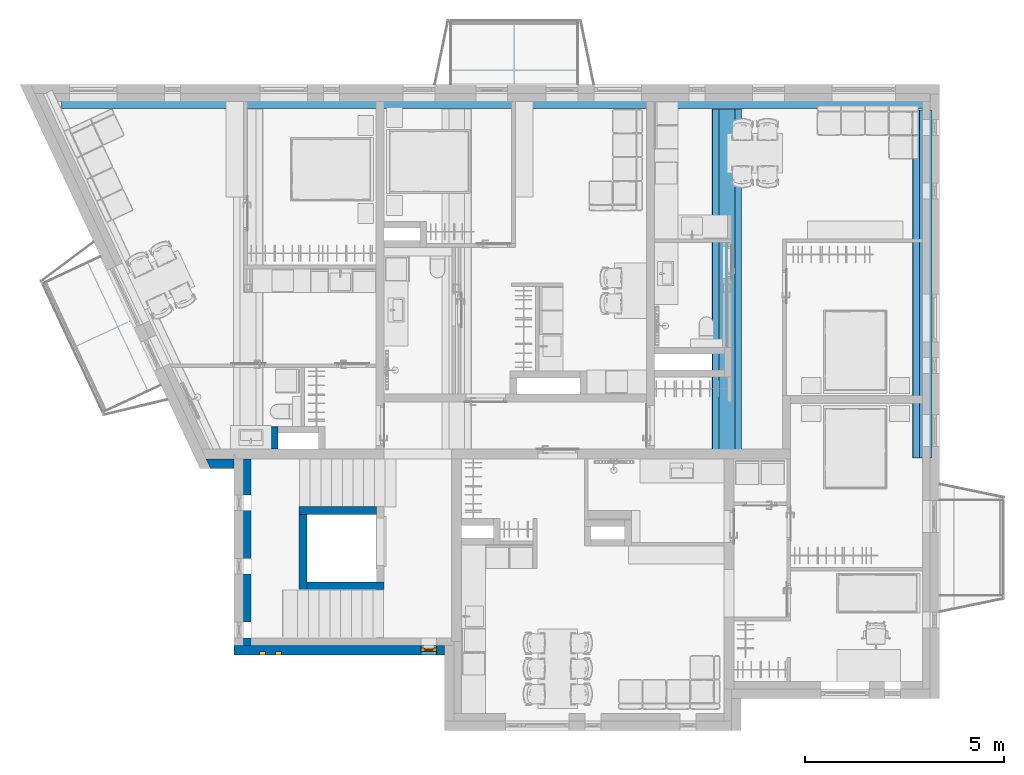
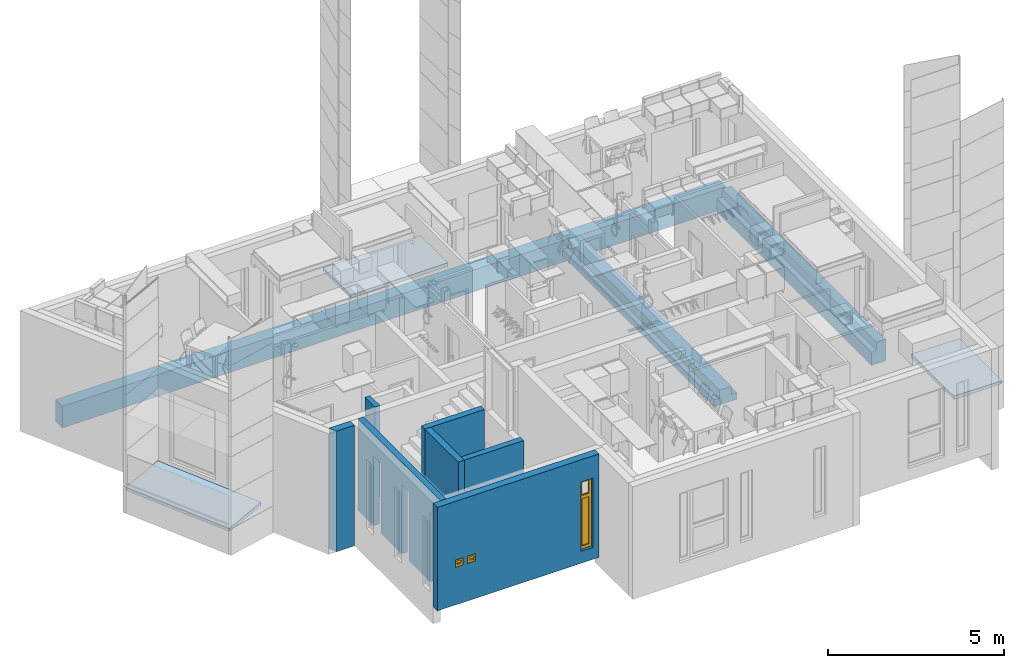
# One storey, part 2 of 125: 7 walls, 3 beams, 3 slabs, 3 windows, 12 openings.
"""IFC2X3 building model written with IfcOpenShell, lengths in millimetres."""

from ifc_helpers import new_model, entity, si_unit, converted_unit, direction, frame, frame_2d, origin, place, context, subcontext, project, spatial, polyline, rectangle, outline, extrude, clip, bounded_halfspace, faceted_brep, source, transform, mapped, material, material_list, layer, layer_set, layer_usage, type_object, type_shapes, element, fill, save


model = new_model("IFC2X3")

# Units and contexts
model_context = context("Model", 3, precision=0.01, world=origin(), true_north=direction((6.123233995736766e-17, 1.0)))
plan_context = context("Plan", 3, precision=0.01, world=origin(), true_north=direction((6.123233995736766e-17, 1.0)))
body_context = subcontext(model_context, "Body", "Model", "MODEL_VIEW")
ifc_project = project(units=[si_unit("LENGTHUNIT", "METRE", prefix="MILLI"), converted_unit("PLANEANGLEUNIT", "DEGREE", entity("IfcPlaneAngleMeasure", 0.017453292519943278), si_unit("PLANEANGLEUNIT", "RADIAN"), dimensions=[0, 0, 0, 0, 0, 0, 0]), si_unit("AREAUNIT", "SQUARE_METRE")], contexts=[model_context, plan_context])

# Site, building, storey
site_placement = place(None, origin())
site = spatial("IfcSite", under=ifc_project, at=site_placement, Name="Default", CompositionType="ELEMENT")
building_placement = place(site_placement, origin())
building = spatial("IfcBuilding", under=site, at=building_placement, CompositionType="ELEMENT")
storey_placement = place(building_placement, frame((0.0, 0.0, 3125.0)))
storey = spatial("IfcBuildingStorey", under=building, at=storey_placement, Name="2K", CompositionType="ELEMENT", Elevation=3125.0)

# Beams
ifc_material_1 = material(Name="_K. Betoon. Armeeritud. Monteeritav")
beam_type_1 = type_object("IfcBeamType", Name="M_Precast Beam - Double-Sided Corbel - Straight Ends:T-tala", PredefinedType="BEAM")
beam_1_placement = place(storey_placement, frame((11975.000000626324, 15229.041478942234, -155.0), z_axis=(0.0, 0.0, 1.0), x_axis=(0.0, -1.0, 0.0)))
element("IfcBeam", 1, at=beam_1_placement, inside=storey, type_object=beam_type_1, material=ifc_material_1, Name="M_Precast Beam - Double-Sided Corbel - Straight Ends:T-tala", ObjectType="M_Precast Beam - Double-Sided Corbel - Straight Ends:T-tala", context=body_context, shape_type="SweptSolid", body=[
    extrude(outline(polyline([(-19.166666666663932, -375.0), (190.83333333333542, -375.0), (200.8333333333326, -365.0), (200.83333333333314, 365.0), (190.8333333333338, 375.0), (-19.166666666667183, 375.0), (-29.166666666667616, 365.0), (-29.166666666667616, 200.0), (-314.16666666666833, 200.0), (-314.1666666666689, -200.0), (-29.1666666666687, -200.0), (-29.166666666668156, -365.0), (-19.166666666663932, -375.0)])), frame((20.0, 0.0, -314.1666666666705), z_axis=(1.0, 0.0, 0.0), x_axis=(0.0, 0.0, -1.0)), (0.0, 0.0, 1.0), 8610.0),
])
beam_type_2 = type_object("IfcBeamType", Name="M_Precast Beam - One-Sided Corbel - Straight Ends:400x600", PredefinedType="BEAM")
beam_2_placement = place(storey_placement, frame((16974.999995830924, 15210.017120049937, -155.0), z_axis=(0.0, 0.0, 1.0), x_axis=(0.0, -1.0, 0.0)))
element("IfcBeam", 2, at=beam_2_placement, inside=storey, type_object=beam_type_2, material=ifc_material_1, Name="M_Precast Beam - One-Sided Corbel - Straight Ends:400x600", ObjectType="M_Precast Beam - One-Sided Corbel - Straight Ends:400x600", context=body_context, shape_type="SweptSolid", body=[
    extrude(outline(polyline([(-132.22222222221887, -198.3333333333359), (312.7777777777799, -198.3333333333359), (322.7777777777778, -188.33333333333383), (322.7777777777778, 266.6666666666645), (312.77777777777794, 276.6666666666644), (-427.2222222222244, 276.6666666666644), (-427.2222222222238, -23.333333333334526), (-142.22222222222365, -23.333333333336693), (-142.22222222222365, -188.33333333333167), (-132.22222222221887, -198.3333333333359)])), frame((20.0, -126.66666666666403, -427.222222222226), z_axis=(1.0, 0.0, 0.0), x_axis=(0.0, 0.0, -1.0)), (0.0, 0.0, 1.0), 8765.015695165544),
])
beam_type_3 = type_object("IfcBeamType", Name="M_Precast-Rectangular Beam:400 RB 800", PredefinedType="BEAM")
beam_3_placement = place(storey_placement, frame((-5142.069995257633, 15430.000257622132, -155.0)))
element("IfcBeam", 3, at=beam_3_placement, inside=storey, type_object=beam_type_3, material=ifc_material_1, Name="M_Precast-Rectangular Beam:400 RB 800", ObjectType="M_Precast-Rectangular Beam:400 RB 800", context=body_context, shape_type="SweptSolid", body=[
    extrude(rectangle(XDim=750.0, YDim=400.00000000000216, at=frame_2d((1.1368683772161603e-13, 1.0942358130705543e-12), x_axis=(1.0, 0.0))), frame((368.4903184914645, 0.0, -375.0), z_axis=(1.0, 0.0, 0.0), x_axis=(0.0, 0.0, -1.0)), (0.0, 0.0, 1.0), 21743.579676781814),
])

# Slabs
slab_type = type_object("IfcSlabType", Name="HR_Slab_Balcony_v3:Default", PredefinedType="FLOOR", material=ifc_material_1)
slab_1_placement = place(storey_placement, frame((0.0, 0.0, -225.50023803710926)))
element("IfcSlab", 4, at=slab_1_placement, inside=storey, type_object=slab_type, Name="HR_Slab_Balcony_v3:Default", ObjectType="HR_Slab_Balcony_v3:Default", PredefinedType="FLOOR", context=body_context, shape_type="SweptSolid", body=[
    extrude(outline(polyline([(-636.2215697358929, 62.61096566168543), (-637.2171002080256, -42.38431479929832), (-604.7185610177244, -42.69245518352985), (-594.6241980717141, -32.78771708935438), (-579.6248722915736, -32.92993572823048), (-569.7201341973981, -43.02429867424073), (944.7117920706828, -57.38364057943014), (945.849541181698, 62.610965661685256), (865.8531370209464, 63.36946506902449), (865.7119652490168, 62.61096566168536), (-636.2215697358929, 62.61096566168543)])), frame((5031.41658844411, 16795.213397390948, 48.424019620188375), z_axis=(-1.0, 0.0, 0.0), x_axis=(0.0, -0.9999550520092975, 0.00948124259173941)), (0.0, 0.0, -1.0), 3194.999999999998),
])
slab_2_placement = place(storey_placement, frame((0.0, 0.0, -225.50023803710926)))
element("IfcSlab", 5, at=slab_2_placement, inside=storey, type_object=slab_type, Name="HR_Slab_Balcony_v3:Default", ObjectType="HR_Slab_Balcony_v3:Default", PredefinedType="FLOOR", context=body_context, shape_type="SweptSolid", body=[
    extrude(outline(polyline([(-945.2133973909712, -71.57598037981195), (-865.2133973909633, -71.57598037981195), (-865.0794234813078, -70.81617658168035), (636.7866026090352, -56.5759803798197), (636.7866026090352, 48.424019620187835), (604.2866026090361, 48.424019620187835), (594.2866026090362, 38.42401962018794), (579.2866026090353, 38.42401962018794), (569.2866026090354, 48.424019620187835), (-945.2133973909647, 48.424019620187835), (-945.2133973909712, -71.57598037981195)])), frame((18295.213397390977, 2952.68658823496, 48.424019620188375), z_axis=(0.0, 1.0, 0.0), x_axis=(1.0, 0.0, 0.0)), (0.0, 0.0, 1.0), 2418.0000000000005),
])
slab_3_placement = place(storey_placement, frame((0.0, 0.0, -225.50023803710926)))
element("IfcSlab", 6, at=slab_3_placement, inside=storey, type_object=slab_type, Name="HR_Slab_Balcony_v3:Default", ObjectType="HR_Slab_Balcony_v3:Default", PredefinedType="FLOOR", context=body_context, shape_type="SweptSolid", body=[
    extrude(outline(polyline([(-636.2215697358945, 62.610965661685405), (-637.217100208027, -42.38431479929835), (-604.7185610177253, -42.69245518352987), (-594.624198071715, -32.78771708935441), (-579.6248722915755, -32.9299357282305), (-569.7201341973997, -43.02429867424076), (944.7117920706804, -57.383640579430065), (945.8495411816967, 62.61096566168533), (865.8531370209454, 63.36946506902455), (865.7119652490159, 62.61096566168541), (-636.2215697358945, 62.610965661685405)])), frame((-3143.9997280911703, 7850.2162604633, 48.424019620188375), z_axis=(0.4244338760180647, -0.9054589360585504, 0.0), x_axis=(0.9054182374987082, 0.42441479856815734, 0.009481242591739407)), (0.0, 0.0, -1.0), 3584.0),
])

# Walls
ifc_material_2 = material(Name="_K. Väisviimistlus. Krohv. Valge")
ifc_layer_1 = layer(ifc_material_2, 5.0)
ifc_material_3 = material(Name="_K. Müüritis. Väikeplokk. Betoon-õõnesplokk")
ifc_layer_2 = layer(ifc_material_3, 190.00000000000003)
ifc_layer_3 = layer(ifc_material_2, 5.0)
ifc_layer_set_1 = layer_set([ifc_layer_1, ifc_layer_2, ifc_layer_3], Name="Basic Wall:SS-01. 190")
ifc_layer_usage_1 = layer_usage(ifc_layer_set_1, "AXIS2", "NEGATIVE", 100.00000000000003)
wall_type_1 = type_object("IfcWallType", Name="Basic Wall:SS-01. 190", PredefinedType="STANDARD", material=ifc_layer_set_1)
wall_1_placement = place(storey_placement, frame((1199.993534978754, 5099.998433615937, 0.0)))
element("IfcWallStandardCase", 7, at=wall_1_placement, inside=storey, type_object=wall_type_1, material=ifc_layer_usage_1, Name="Basic Wall:SS-01. 190", ObjectType="Basic Wall:SS-01. 190", context=body_context, shape_type="SweptSolid", body=[
    extrude(rectangle(XDim=1949.9999999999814, YDim=200.0, at=frame_2d((974.9999999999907, 0.0), x_axis=(-1.0, 0.0))), origin(), (0.0, 0.0, 1.0), 3169.9999999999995),
])
ifc_layer_usage_2 = layer_usage(ifc_layer_set_1, "AXIS2", "NEGATIVE", 100.00000000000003)
wall_2_placement = place(storey_placement, frame((1299.993534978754, 3109.993855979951, 0.0), z_axis=(0.0, 0.0, 1.0), x_axis=(0.0, 1.0, 0.0)))
element("IfcWallStandardCase", 8, at=wall_2_placement, inside=storey, type_object=wall_type_1, material=ifc_layer_usage_2, Name="Basic Wall:SS-01. 190", ObjectType="Basic Wall:SS-01. 190", context=body_context, shape_type="SweptSolid", body=[
    extrude(rectangle(XDim=1890.0045776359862, YDim=200.0, at=frame_2d((945.0022888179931, 0.0), x_axis=(-1.0, 0.0))), origin(), (0.0, 0.0, 1.0), 3169.9999999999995),
])

# Wall, openings
ifc_layer_usage_3 = layer_usage(ifc_layer_set_1, "AXIS2", "NEGATIVE", 100.00000000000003)
wall_3_placement = place(storey_placement, frame((-100.0, 1710.0, 0.0), z_axis=(0.0, 0.0, 1.0), x_axis=(0.0, 1.0, 0.0)))
wall_3 = element("IfcWallStandardCase", 9, at=wall_3_placement, inside=storey, type_object=wall_type_1, material=ifc_layer_usage_3, Name="Basic Wall:SS-01. 190", ObjectType="Basic Wall:SS-01. 190", context=body_context, shape_type="Clipping", body=[
    clip(extrude(rectangle(XDim=4689.99995949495, YDim=200.00000000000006, at=frame_2d((2344.999979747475, 2.1316282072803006e-14), x_axis=(-1.0, 0.0))), origin(), (0.0, 0.0, 1.0), 3169.9999999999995), bounded_halfspace(frame((4689.99995949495, 90.0, 0.0), z_axis=(0.0, -1.0, 0.0), x_axis=(1.0, 0.0, 0.0)), True, frame((4689.99995949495, 90.0, 0.0), z_axis=(0.0, -1.0, 0.0), x_axis=(1.0, 0.0, 0.0)), polyline([(0.0, 0.0), (0.0, 3170.0), (-4689.9999594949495, 3170.0), (-4689.9999594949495, 0.0), (-4499.99995949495, 0.0), (-4499.99995949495, 2400.0), (-4099.99995949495, 2400.0), (-4099.999959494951, 0.0), (-2899.9999594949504, 0.0), (-2899.9999594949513, 2400.0), (-2499.9999594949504, 2400.0), (-2499.999959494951, 0.0), (-1299.999959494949, 0.0), (-1299.99995949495, 2400.0), (-899.9999594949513, 2400.0), (-899.9999594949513, 0.0), (0.0, 0.0)]))),
])
opening_1_placement = place(wall_3_placement, frame((-1710.0, -100.0, 0.0)))
element("IfcOpeningElement", 10, at=opening_1_placement, cuts=wall_3, Name="Basic Wall:SS-01. 190", ObjectType="Opening", context=body_context, shape_type="Brep", body=[
    faceted_brep([(2300.0, 450.0, 2400.0), (2300.0, -244.0, 2400.0), (2300.0, -244.0, 0.0), (2300.0, 340.0, 0.0), (2300.0, 350.0, 0.0), (2300.0, 450.0, 0.0), (1900.0, 450.0, 2400.0), (1900.0, -244.0, 2400.0), (1900.0, 450.0, 0.0), (1900.0, 350.0, 0.0), (1900.0, 340.0, 0.0), (1900.0, -244.0, 0.0)], [[[0, 1, 2, 3, 4, 5]], [[6, 7, 1, 0]], [[8, 9, 10, 11, 7, 6]], [[5, 4, 3, 2, 11, 10, 9, 8]], [[6, 0, 5, 8]], [[7, 11, 2, 1]]]),
])
opening_2_placement = place(wall_3_placement, frame((-1710.0, -100.0, 0.0)))
element("IfcOpeningElement", 11, at=opening_2_placement, cuts=wall_3, Name="Basic Wall:SS-01. 190", ObjectType="Opening", context=body_context, shape_type="Brep", body=[
    faceted_brep([(3900.0, 450.0, 2400.0), (3900.0, -244.0, 2400.0), (3900.0, -244.0, 0.0), (3900.0, 340.0, 0.0), (3900.0, 350.0, 0.0), (3900.0, 450.0, 0.0), (3500.0, 450.0, 2400.0), (3500.0, -244.0, 2400.0), (3500.0, 450.0, 0.0), (3500.0, 350.0, 0.0), (3500.0, 340.0, 0.0), (3500.0, -244.0, 0.0)], [[[0, 1, 2, 3, 4, 5]], [[6, 7, 1, 0]], [[8, 9, 10, 11, 7, 6]], [[5, 4, 3, 2, 11, 10, 9, 8]], [[6, 0, 5, 8]], [[7, 11, 2, 1]]]),
])
opening_3_placement = place(wall_3_placement, frame((-1710.0, -100.0, 0.0)))
element("IfcOpeningElement", 12, at=opening_3_placement, cuts=wall_3, Name="Basic Wall:SS-01. 190", ObjectType="Opening", context=body_context, shape_type="Brep", body=[
    faceted_brep([(5500.0, 450.0, 2400.0), (5500.0, -244.0, 2400.0), (5500.0, -244.0, 0.0), (5500.0, 340.0, 0.0), (5500.0, 350.0, 0.0), (5500.0, 450.0, 0.0), (5100.0, 450.0, 2400.0), (5100.0, -244.0, 2400.0), (5100.0, 450.0, 0.0), (5100.0, 350.0, 0.0), (5100.0, 340.0, 0.0), (5100.0, -244.0, 0.0)], [[[0, 1, 2, 3, 4, 5]], [[6, 7, 1, 0]], [[8, 9, 10, 11, 7, 6]], [[5, 4, 3, 2, 11, 10, 9, 8]], [[6, 0, 5, 8]], [[7, 11, 2, 1]]]),
])
opening_4_placement = place(wall_3_placement, frame((-1710.0, -100.0, 3170.0)))
element("IfcOpeningElement", 13, at=opening_4_placement, cuts=wall_3, Name="Basic Wall:SS-01. 190", ObjectType="Opening", context=body_context, shape_type="Brep", body=[
    faceted_brep([(2949.999959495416, 450.0, 2400.0), (2949.9999594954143, -244.0, 2400.0), (2949.9999594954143, -244.0, 0.0), (2949.999959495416, 340.0, 0.0), (2949.999959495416, 350.0, 0.0), (2949.999959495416, 450.0, 0.0), (2549.999959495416, 450.0, 2400.0), (2549.9999594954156, -244.0, 2400.0), (2549.999959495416, 450.0, 0.0), (2549.999959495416, 350.0, 0.0), (2549.999959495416, 340.0, 0.0), (2549.9999594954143, -244.0, 0.0)], [[[0, 1, 2, 3, 4, 5]], [[6, 7, 1, 0]], [[8, 9, 10, 11, 7, 6]], [[5, 4, 3, 2, 11, 10, 9, 8]], [[6, 0, 5, 8]], [[7, 11, 2, 1]]]),
])
opening_5_placement = place(wall_3_placement, frame((-1710.0, -100.0, 3170.0)))
element("IfcOpeningElement", 14, at=opening_5_placement, cuts=wall_3, Name="Basic Wall:SS-01. 190", ObjectType="Opening", context=body_context, shape_type="Brep", body=[
    faceted_brep([(4549.999959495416, 450.0, 2400.0), (4549.999959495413, -244.0, 2400.0), (4549.999959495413, -244.0, 0.0), (4549.999959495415, 340.0, 0.0), (4549.999959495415, 350.0, 0.0), (4549.999959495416, 450.0, 0.0), (4149.999959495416, 450.0, 2400.0), (4149.999959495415, -244.0, 2400.0), (4149.999959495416, 450.0, 0.0), (4149.999959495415, 350.0, 0.0), (4149.999959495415, 340.0, 0.0), (4149.999959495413, -244.0, 0.0)], [[[0, 1, 2, 3, 4, 5]], [[6, 7, 1, 0]], [[8, 9, 10, 11, 7, 6]], [[5, 4, 3, 2, 11, 10, 9, 8]], [[6, 0, 5, 8]], [[7, 11, 2, 1]]]),
])
opening_6_placement = place(wall_3_placement, frame((-1710.0, -100.0, 3170.0)))
element("IfcOpeningElement", 15, at=opening_6_placement, cuts=wall_3, Name="Basic Wall:SS-01. 190", ObjectType="Opening", context=body_context, shape_type="Brep", body=[
    faceted_brep([(6149.999959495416, 450.0, 2400.0), (6149.999959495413, -244.0, 2400.0), (6149.999959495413, -244.0, 0.0), (6149.999959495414, 340.0, 0.0), (6149.999959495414, 350.0, 0.0), (6149.999959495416, 450.0, 0.0), (5749.999959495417, 450.0, 2400.0), (5749.999959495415, -244.0, 2400.0), (5749.999959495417, 450.0, 0.0), (5749.999959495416, 350.0, 0.0), (5749.999959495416, 340.0, 0.0), (5749.999959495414, -244.0, 0.0)], [[[0, 1, 2, 3, 4, 5]], [[6, 7, 1, 0]], [[8, 9, 10, 11, 7, 6]], [[5, 4, 3, 2, 11, 10, 9, 8]], [[6, 0, 5, 8]], [[7, 11, 2, 1]]]),
])

# Wall
ifc_layer_4 = layer(ifc_material_3, 190.00000000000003)
ifc_layer_set_2 = layer_set([ifc_layer_4], Name="Basic Wall:Columbia 190mm")
ifc_layer_usage_4 = layer_usage(ifc_layer_set_2, "AXIS2", "NEGATIVE", 95.00000000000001)
wall_type_2 = type_object("IfcWallType", Name="Basic Wall:Columbia 190mm", PredefinedType="STANDARD", material=ifc_layer_set_2)
wall_4_placement = place(storey_placement, frame((3349.9935349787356, 3204.993855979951, 0.0), z_axis=(0.0, 0.0, 1.0), x_axis=(-1.0, 0.0, 0.0)))
element("IfcWallStandardCase", 16, at=wall_4_placement, inside=storey, type_object=wall_type_2, material=ifc_layer_usage_4, Name="Basic Wall:Columbia 190mm", ObjectType="Basic Wall:Columbia 190mm", context=body_context, shape_type="SweptSolid", body=[
    extrude(rectangle(XDim=1949.9999999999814, YDim=190.0000000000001, at=frame_2d((974.9999999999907, 0.0), x_axis=(-1.0, 0.0))), origin(), (0.0, 0.0, 1.0), 3169.9999999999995),
])

# Wall, openings, windows
ifc_layer_5 = layer(ifc_material_2, 10.0)
ifc_material_4 = material(Name="_K. Soojustus. EPS Silver")
ifc_layer_6 = layer(ifc_material_4, 230.0)
ifc_layer_set_3 = layer_set([ifc_layer_5, ifc_layer_6], Name="Basic Wall:VS-01")
ifc_layer_usage_5 = layer_usage(ifc_layer_set_3, "AXIS2", "NEGATIVE", 120.0)
wall_type_3 = type_object("IfcWallType", Name="Basic Wall:VS-01", PredefinedType="STANDARD", material=ifc_layer_set_3)
wall_5_placement = place(storey_placement, frame((4870.0, 1590.0, -420.0001983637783), z_axis=(0.0, 0.0, 1.0), x_axis=(-1.0, 0.0, 0.0)))
wall_5 = element("IfcWallStandardCase", 17, at=wall_5_placement, inside=storey, type_object=wall_type_3, material=ifc_layer_usage_5, Name="Basic Wall:VS-01", ObjectType="Basic Wall:VS-01", context=body_context, shape_type="SweptSolid", body=[
    extrude(rectangle(XDim=5300.000000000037, YDim=240.0000000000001, at=frame_2d((2650.0000000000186, -6.394884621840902e-14), x_axis=(-1.0, 0.0))), origin(), (0.0, 0.0, 1.0), 3590.000198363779),
])
opening_7_placement = place(wall_5_placement, frame((4870.0, 1590.0, 3590.0001983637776)))
element("IfcOpeningElement", 18, at=opening_7_placement, cuts=wall_5, Name="Basic Wall:VS-01", ObjectType="Opening", context=body_context, shape_type="Brep", body=[
    faceted_brep([(-4270.0, -1450.0, 2400.0), (-4270.0, -2144.0, 2400.0), (-4270.0, -2144.0, 0.0), (-4270.0, -1560.0, 0.0), (-4270.0, -1550.0, 0.0), (-4270.0, -1450.0, 0.0), (-4670.0, -1450.0, 2400.0), (-4670.0, -2144.0, 2400.0), (-4670.0, -1450.0, 0.0), (-4670.0, -1550.0, 0.0), (-4670.0, -1560.0, 0.0), (-4670.0, -2144.0, 0.0)], [[[0, 1, 2, 3, 4, 5]], [[6, 7, 1, 0]], [[8, 9, 10, 11, 7, 6]], [[5, 4, 3, 2, 11, 10, 9, 8]], [[6, 0, 5, 8]], [[7, 11, 2, 1]]]),
])
opening_8_placement = place(wall_5_placement, frame((4870.0, 1590.0, 420.0001983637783), z_axis=(0.0, 0.0, 1.0), x_axis=(-1.0, 0.0, 0.0)))
opening_8 = element("IfcOpeningElement", 19, at=opening_8_placement, cuts=wall_5, Name="Basic Wall:VS-01", ObjectType="Opening", context=body_context, shape_type="Brep", body=[
    faceted_brep([(4270.0, 1450.0, 2400.0), (4270.0, 2144.0, 2400.0), (4270.0, 2144.0, 0.0), (4270.0, 1560.0, 0.0), (4270.0, 1550.0, 0.0), (4270.0, 1450.0, 0.0), (4670.0, 1450.0, 2400.0), (4670.0, 2144.0, 2400.0), (4670.0, 1450.0, 0.0), (4670.0, 1550.0, 0.0), (4670.0, 1560.0, 0.0), (4670.0, 2144.0, 0.0)], [[[0, 1, 2, 3, 4, 5]], [[6, 7, 1, 0]], [[8, 9, 10, 11, 7, 6]], [[5, 4, 3, 2, 11, 10, 9, 8]], [[6, 0, 5, 8]], [[7, 11, 2, 1]]]),
])
opening_9_placement = place(wall_5_placement, frame((4512.948739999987, -120.0, 1353.8541083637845)))
opening_9 = element("IfcOpeningElement", 20, at=opening_9_placement, cuts=wall_5, Name="HR_Louver_Rectangle_v1:150x150:1", ObjectType="Opening", context=body_context, shape_type="SweptSolid", body=[
    extrude(rectangle(XDim=149.99999999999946, YDim=149.99999999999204, at=frame_2d((74.99999999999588, 75.00000000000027), x_axis=(0.0, 1.0))), frame((0.0, 0.0, 0.0), z_axis=(0.0, 1.0, 0.0), x_axis=(0.0, 0.0, 1.0)), (0.0, 0.0, 1.0), 240.0),
])
opening_10_placement = place(wall_5_placement, frame((4107.948739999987, -120.0, 1353.8541083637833)))
opening_10 = element("IfcOpeningElement", 21, at=opening_10_placement, cuts=wall_5, Name="HR_Louver_Rectangle_v1:150x150:1", ObjectType="Opening", context=body_context, shape_type="SweptSolid", body=[
    extrude(rectangle(XDim=149.99999999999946, YDim=149.99999999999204, at=frame_2d((74.99999999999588, 75.00000000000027), x_axis=(0.0, 1.0))), frame((0.0, 0.0, 0.0), z_axis=(0.0, 1.0, 0.0), x_axis=(0.0, 0.0, 1.0)), (0.0, 0.0, 1.0), 240.0),
])
ifc_material_5 = material(Name="_K. Avatäited. Raam. PVC. Valge")
ifc_material_6 = material(Name="_K. Klaas. Pakett")
ifc_material_7 = material(Name="_K. Avatäited. Raam. PVC. RAL9005")
ifc_material_list = material_list([ifc_material_5, ifc_material_6, ifc_material_7])
window_style_1 = type_object("IfcWindowStyle", Name="HR_Window_Generic_Rectangle_1x2:A-15.400x2400.ma", ConstructionType="NOTDEFINED", OperationType="NOTDEFINED", ParameterTakesPrecedence=False, Sizeable=False, material=ifc_material_list)
shared_shape_1 = source(origin(), body_context, "Body", "Brep", [
    faceted_brep([(88.0, -194.0, 1739.0), (312.0, -194.0, 1739.0), (312.0, -194.0, 108.0), (88.0, -194.0, 108.0), (342.0, -194.0, 1769.0), (58.0, -194.0, 1769.0), (58.0, -194.0, 78.0), (342.0, -194.0, 78.0), (88.0, -159.0, 1739.0), (88.0, -159.0, 108.0), (312.0, -159.0, 108.0), (342.0, -159.0, 1769.0), (342.0, -159.0, 78.0), (58.0, -159.0, 78.0), (58.0, -159.0, 1769.0), (312.0, -159.0, 1739.0)], [[[0, 1, 2, 3], [4, 5, 6, 7]], [[8, 0, 3, 9]], [[9, 3, 2, 10]], [[11, 12, 13, 14], [15, 8, 9, 10]], [[1, 15, 10, 2]], [[6, 5, 14, 13]], [[7, 6, 13, 12]], [[4, 7, 12, 11]], [[15, 1, 0, 8]], [[5, 4, 11, 14]]], outer=[[False, True], [True], [True], [True, False], [True], [True], [True], [True], [True], [True]]),
    faceted_brep([(342.0, -159.0, 1769.0), (58.0, -159.0, 1769.0), (58.0, -159.0, 78.0), (342.0, -159.0, 78.0), (58.0, -134.0, 1769.0), (58.0, -134.0, 78.0), (342.0, -134.0, 78.0), (342.0, -134.0, 1769.0)], [[[0, 1, 2, 3]], [[2, 1, 4, 5]], [[3, 2, 5, 6]], [[0, 3, 6, 7]], [[7, 6, 5, 4]], [[1, 0, 7, 4]]]),
    faceted_brep([(58.0, -134.0, 2342.0), (58.0, -134.0, 1831.0), (342.0, -134.0, 1831.0), (342.0, -134.0, 2342.0), (88.0, -134.0, 2312.0), (312.0, -134.0, 2312.0), (312.0, -134.0, 1861.0), (88.0, -134.0, 1861.0), (342.0, -134.0, 1769.0), (342.0, -134.0, 78.0), (342.0, -194.0, 78.0), (342.0, -194.0, 1769.0), (58.0, -134.0, 78.0), (58.0, -134.0, 1769.0), (58.0, -194.0, 1769.0), (58.0, -194.0, 78.0), (312.0, -100.0, 108.0), (88.0, -100.0, 108.0), (88.0, -134.0, 108.0), (312.0, -134.0, 108.0), (88.0, -100.0, 1739.0), (88.0, -134.0, 1739.0), (312.0, -100.0, 1739.0), (312.0, -134.0, 1739.0), (400.0, -194.0, 2400.0), (0.0, -194.0, 2400.0), (0.0, -194.0, 30.0), (400.0, -194.0, 30.0), (58.0, -194.0, 2342.0), (342.0, -194.0, 2342.0), (342.0, -194.0, 1831.0), (58.0, -194.0, 1831.0), (0.0, -100.0, 2400.0), (0.0, -100.0, 30.0), (0.0, -110.0, 30.0), (0.0, -110.0, 0.0), (0.0, -184.0, 0.0), (0.0, -184.0, 30.0), (400.0, -184.0, 30.0), (400.0, -100.0, 2400.0), (400.0, -184.0, 0.0), (400.0, -110.0, 0.0), (400.0, -110.0, 30.0), (400.0, -100.0, 30.0), (88.0, -100.0, 2312.0), (88.0, -100.0, 1861.0), (312.0, -100.0, 1861.0), (312.0, -100.0, 2312.0)], [[[0, 1, 2, 3], [4, 5, 6, 7]], [[8, 9, 10, 11]], [[12, 13, 14, 15]], [[9, 12, 15, 10]], [[16, 17, 18, 19]], [[17, 20, 21, 18]], [[22, 16, 19, 23]], [[11, 10, 15, 14], [24, 25, 26, 27], [28, 29, 30, 31]], [[25, 32, 33, 34, 35, 36, 37, 26]], [[37, 38, 27, 26]], [[39, 24, 27, 38, 40, 41, 42, 43]], [[17, 16, 22, 20], [32, 39, 43, 33], [44, 45, 46, 47]], [[42, 34, 33, 43]], [[34, 42, 41, 35]], [[35, 41, 40, 36]], [[38, 37, 36, 40]], [[25, 24, 39, 32]], [[44, 47, 5, 4]], [[47, 46, 6, 5]], [[45, 44, 4, 7]], [[0, 3, 29, 28]], [[3, 2, 30, 29]], [[13, 8, 11, 14]], [[1, 0, 28, 31]], [[2, 1, 31, 30]], [[46, 45, 7, 6]], [[20, 22, 23, 21]], [[9, 8, 13, 12], [19, 18, 21, 23]]], outer=[[True, False], [True], [True], [True], [True], [True], [True], [False, True, False], [True], [True], [True], [False, True, False], [True], [True], [True], [True], [True], [True], [True], [True], [True], [True], [True], [True], [True], [True], [True], [True, False]]),
])
type_shapes(window_style_1, [shared_shape_1])
window_1_placement = place(opening_8_placement, frame((4670.0, 1450.0, 0.0), z_axis=(0.0, 0.0, 1.0), x_axis=(-1.0, 0.0, 0.0)))
window_1 = element("IfcWindow", 22, at=window_1_placement, inside=storey, type_object=window_style_1, material=ifc_material_list, Name="HR_Window_Generic_Rectangle_1x2:A-15.400x2400.ma", ObjectType="HR_Window_Generic_Rectangle_1x2:A-15.400x2400.ma", OverallHeight=2465.0000000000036, OverallWidth=400.00000000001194, context=body_context, shape_type="MappedRepresentation", body=[
    mapped(shared_shape_1, transform((0.0, 0.0, 0.0), scale=1.0)),
])
fill(opening_8, window_1)
ifc_material_8 = material(Name="_K. Metall. Plekk. Värvitud. Valge")
window_style_2 = type_object("IfcWindowStyle", Name="HR_Louver_Rectangle_v1:150x150", ConstructionType="NOTDEFINED", OperationType="NOTDEFINED", ParameterTakesPrecedence=False, Sizeable=False, material=ifc_material_8)
shared_shape_2 = source(origin(), body_context, "Body", "SweptSolid", [
    extrude(outline(polyline([(-35.341194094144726, 1.0), (-57.145910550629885, -19.604716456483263), (-55.77226278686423, -21.058364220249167), (-34.54571762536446, -1.0), (35.34119409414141, -1.0), (57.14591055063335, 19.60471645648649), (55.7722627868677, 21.058364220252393), (34.545717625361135, 1.0), (-35.341194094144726, 1.0)])), frame((2.0, 215.0, 57.0), z_axis=(-1.0, 0.0, 0.0), x_axis=(0.0, 0.6868238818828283, -0.7268238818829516)), (0.0, 0.0, -1.0), 145.99999999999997),
    extrude(outline(polyline([(-35.341194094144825, 1.0), (-57.145910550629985, -19.604716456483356), (-55.77226278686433, -21.058364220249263), (-34.54571762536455, -1.0), (35.34119409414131, -1.0), (57.14591055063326, 19.604716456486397), (55.77226278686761, 21.058364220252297), (34.545717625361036, 1.0), (-35.341194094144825, 1.0)])), frame((2.0, 215.0, 93.0), z_axis=(-1.0, 0.0, 0.0), x_axis=(0.0, 0.6868238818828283, -0.7268238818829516)), (0.0, 0.0, -1.0), 145.99999999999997),
    extrude(outline(polyline([(-125.0, -125.0), (125.0, -125.0), (125.0, 125.0), (-125.0, 125.0), (-125.0, -125.0)]), holes=[polyline([(-73.0, -73.0), (-73.0, 73.0), (73.0, 73.0), (73.0, -73.0), (-73.0, -73.0)])]), frame((75.0, 240.0, 75.0), z_axis=(0.0, 1.0, 0.0), x_axis=(1.0, 0.0, 0.0)), (0.0, 0.0, 1.0), 1.9999999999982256),
    extrude(outline(polyline([(-75.0, -75.0), (75.0, -75.0), (75.0, 75.0), (-75.0, 75.0), (-75.0, -75.0)]), holes=[polyline([(73.0, -73.0), (-73.0, -73.0), (-73.0, 73.0), (73.0, 73.0), (73.0, -73.0)])]), frame((75.0, 160.0, 75.0), z_axis=(0.0, 1.0, 0.0), x_axis=(0.0, 0.0, -1.0)), (0.0, 0.0, 1.0), 79.99999999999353),
])
type_shapes(window_style_2, [shared_shape_2])
window_2_placement = place(opening_9_placement, origin())
window_2 = element("IfcWindow", 23, at=window_2_placement, inside=storey, type_object=window_style_2, material=ifc_material_8, Name="HR_Louver_Rectangle_v1:150x150", ObjectType="HR_Louver_Rectangle_v1:150x150", OverallHeight=149.9999999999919, OverallWidth=149.99999999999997, context=body_context, shape_type="MappedRepresentation", body=[
    mapped(shared_shape_2, transform((0.0, 0.0, 0.0), scale=1.0)),
])
fill(opening_9, window_2)
window_3_placement = place(opening_10_placement, origin())
window_3 = element("IfcWindow", 24, at=window_3_placement, inside=storey, type_object=window_style_2, material=ifc_material_8, Name="HR_Louver_Rectangle_v1:150x150", ObjectType="HR_Louver_Rectangle_v1:150x150", OverallHeight=149.9999999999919, OverallWidth=150.0, context=body_context, shape_type="MappedRepresentation", body=[
    mapped(shared_shape_2, transform((0.0, 0.0, 0.0), scale=1.0)),
])
fill(opening_10, window_3)

# Wall, openings
ifc_layer_usage_6 = layer_usage(ifc_layer_set_3, "AXIS2", "NEGATIVE", 120.0)
wall_6_placement = place(storey_placement, frame((-430.0, 6284.999959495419, -1010.0), z_axis=(0.0, 0.0, 1.0), x_axis=(-1.0, 0.0, 0.0)))
wall_6 = element("IfcWallStandardCase", 25, at=wall_6_placement, inside=storey, type_object=wall_type_3, material=ifc_layer_usage_6, Name="Basic Wall:VS-01", ObjectType="Basic Wall:VS-01", context=body_context, shape_type="SweptSolid", body=[
    extrude(outline(polyline([(705.5020687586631, -120.0), (593.0020688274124, 120.0), (0.0, 120.0), (0.0, -120.0), (705.5020687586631, -120.0)])), origin(), (0.0, 0.0, 1.0), 4179.999999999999),
])
opening_11_placement = place(wall_6_placement, frame((-430.0, 6284.999959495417, 1010.0)))
element("IfcOpeningElement", 26, at=opening_11_placement, cuts=wall_6, Name="Basic Wall:VS-01", ObjectType="Opening", context=body_context, shape_type="Brep", body=[
    faceted_brep([(-8220.0, -5557.9999594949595, 2100.0), (-7220.0, -5557.999959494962, 2100.0), (-7220.0, -5557.999959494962, 0.0), (-8220.0, -5557.9999594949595, 0.0), (-8220.0, -7649.999959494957, 0.0), (-8220.0, -7649.999959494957, 2100.0), (-7220.0, -7649.9999594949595, 0.0), (-7220.0, -7649.9999594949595, 2100.0)], [[[0, 1, 2, 3]], [[3, 4, 5, 0]], [[2, 6, 4, 3]], [[1, 7, 6, 2]], [[5, 7, 1, 0]], [[7, 5, 4, 6]]]),
])
opening_12_placement = place(wall_6_placement, frame((-430.0, 6284.999959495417, -2115.0)))
element("IfcOpeningElement", 27, at=opening_12_placement, cuts=wall_6, Name="Basic Wall:VS-01", ObjectType="Opening", context=body_context, shape_type="Brep", body=[
    faceted_brep([(-4820.0, -5719.000000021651, 2100.0), (-3350.0, -5719.000000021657, 2100.0), (-3350.0, -5719.000000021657, 0.0), (-4820.0, -5719.000000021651, 0.0), (-4820.0, -6719.00000002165, 0.0), (-4820.0, -6719.00000002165, -20.0), (-4820.0, -6811.00000002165, -20.0), (-4820.0, -6811.00000002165, 0.0), (-4820.0, -7811.00000002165, 0.0), (-4820.0, -7811.00000002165, 2100.0), (-3350.0, -6719.000000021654, 0.0), (-3350.0, -7811.000000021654, 2100.0), (-3350.0, -7811.000000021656, 0.0), (-3350.0, -6811.000000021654, 0.0), (-3350.0, -6811.000000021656, -20.0), (-3350.0, -6719.000000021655, -20.0)], [[[0, 1, 2, 3]], [[3, 4, 5, 6, 7, 8, 9, 0]], [[2, 10, 4, 3]], [[1, 11, 12, 13, 14, 15, 10, 2]], [[9, 11, 1, 0]], [[11, 9, 8, 12]], [[8, 7, 13, 12]], [[14, 13, 7, 6]], [[5, 4, 10, 15]], [[6, 5, 15, 14]]]),
])

# Wall
ifc_layer_7 = layer(ifc_material_2, 10.0)
ifc_material_9 = material(Name="_K. Müüritis. Väikeplokk. Kergkruusplokk")
ifc_layer_8 = layer(ifc_material_9, 150.0)
ifc_layer_9 = layer(ifc_material_2, 10.0)
ifc_layer_set_4 = layer_set([ifc_layer_7, ifc_layer_8, ifc_layer_9], Name="Basic Wall:SS-03. Šahti sein")
ifc_layer_usage_7 = layer_usage(ifc_layer_set_4, "AXIS2", "NEGATIVE", 85.00000000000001)
wall_type_4 = type_object("IfcWallType", Name="Basic Wall:SS-03. Šahti sein", PredefinedType="STANDARD", material=ifc_layer_set_4)
wall_7_placement = place(storey_placement, frame((595.0, 6649.99995949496, 0.0), z_axis=(0.0, 0.0, 1.0), x_axis=(0.0, 1.0, 0.0)))
element("IfcWallStandardCase", 28, at=wall_7_placement, inside=storey, type_object=wall_type_4, material=ifc_layer_usage_7, Name="Basic Wall:SS-03. Šahti sein", ObjectType="Basic Wall:SS-03. Šahti sein", context=body_context, shape_type="SweptSolid", body=[
    extrude(rectangle(XDim=570.0000405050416, YDim=170.00000000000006, at=frame_2d((285.0000202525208, 7.105427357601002e-15), x_axis=(-1.0, 0.0))), origin(), (0.0, 0.0, 1.0), 3169.9999999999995),
])

save(model, "model.ifc")
